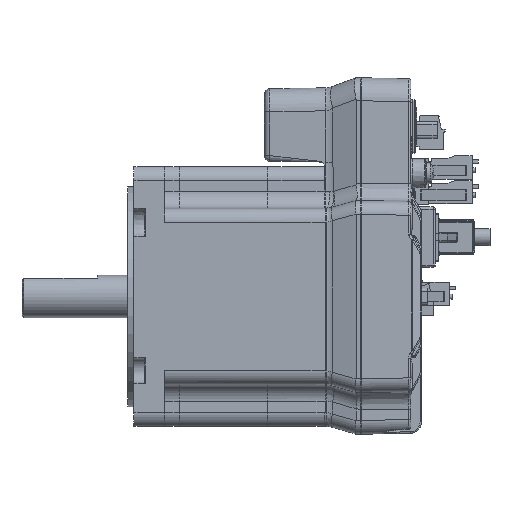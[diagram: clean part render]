
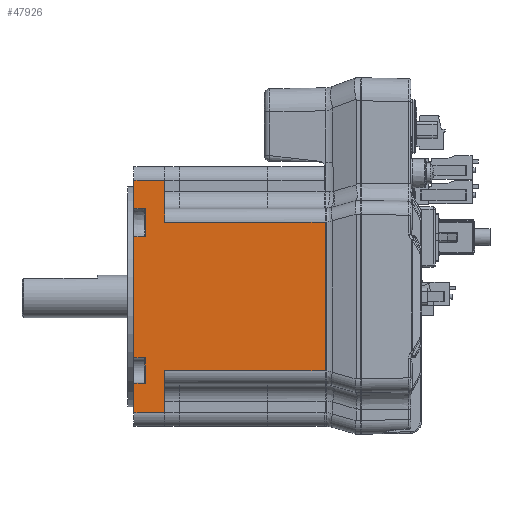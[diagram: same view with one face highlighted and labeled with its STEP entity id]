
A CAD part, left-side view. The second image highlights one B-rep face of the part: STEP entity #47926.
In plain terms, the highlighted planar face has unit normal (-1, 0, 0).
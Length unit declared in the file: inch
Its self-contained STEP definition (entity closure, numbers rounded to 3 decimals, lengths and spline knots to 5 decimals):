
#39510=CARTESIAN_POINT('',(-1.695,3.15028,-0.801));
#39511=VERTEX_POINT('',#39510);
#39518=CARTESIAN_POINT('',(-1.695,3.29628,-0.801));
#39519=VERTEX_POINT('',#39518);
#39520=CARTESIAN_POINT('',(-1.695,3.34628,-0.801));
#39521=DIRECTION('',(0.,1.,0.));
#39522=VECTOR('',#39521,1.);
#39523=LINE('',#39520,#39522);
#39524=EDGE_CURVE('',#39511,#39519,#39523,.T.);
#45187=CARTESIAN_POINT('',(-1.69508,0.80275,0.97109));
#45188=VERTEX_POINT('',#45187);
#45250=CARTESIAN_POINT('',(-1.69508,0.80275,-0.97109));
#45251=VERTEX_POINT('',#45250);
#45918=CARTESIAN_POINT('',(-1.695,0.80731,-0.4855));
#45919=DIRECTION('',(0.,0.,-1.));
#45920=VECTOR('',#45919,1.);
#45921=LINE('',#45918,#45920);
#45922=EDGE_CURVE('',#45188,#45251,#45921,.T.);
#47777=CARTESIAN_POINT('',(-1.695,3.15028,0.78096));
#47778=VERTEX_POINT('',#47777);
#47785=CARTESIAN_POINT('',(-1.695,3.15028,1.15104));
#47786=VERTEX_POINT('',#47785);
#47787=CARTESIAN_POINT('',(-1.695,3.15028,1.84699));
#47788=DIRECTION('',(0.,0.,-1.));
#47789=VECTOR('',#47788,1.);
#47790=LINE('',#47787,#47789);
#47791=EDGE_CURVE('',#47786,#47778,#47790,.T.);
#47818=CARTESIAN_POINT('',(-1.695,3.29628,0.77841));
#47819=VERTEX_POINT('',#47818);
#47820=CARTESIAN_POINT('',(-1.695,3.25086,0.7792));
#47821=DIRECTION('',(0.,1.,-0.017));
#47822=VECTOR('',#47821,1.);
#47823=LINE('',#47820,#47822);
#47824=EDGE_CURVE('',#47778,#47819,#47823,.T.);
#47825=ORIENTED_EDGE('',*,*,#47824,.T.);
#47826=CARTESIAN_POINT('',(-1.695,3.29628,-0.4855));
#47827=DIRECTION('',(0.,0.,-1.));
#47828=VECTOR('',#47827,1.);
#47829=LINE('',#47826,#47828);
#47830=EDGE_CURVE('',#47819,#39519,#47829,.T.);
#47831=ORIENTED_EDGE('',*,*,#47830,.T.);
#47832=ORIENTED_EDGE('',*,*,#39524,.F.);
#47833=CARTESIAN_POINT('',(-1.695,3.15028,-1.131));
#47834=VERTEX_POINT('',#47833);
#47835=CARTESIAN_POINT('',(-1.695,3.15028,0.9635));
#47836=DIRECTION('',(0.,0.,-1.));
#47837=VECTOR('',#47836,1.);
#47838=LINE('',#47835,#47837);
#47839=EDGE_CURVE('',#39511,#47834,#47838,.T.);
#47840=ORIENTED_EDGE('',*,*,#47839,.T.);
#47841=CARTESIAN_POINT('',(-1.695,3.29628,-1.131));
#47842=VERTEX_POINT('',#47841);
#47843=CARTESIAN_POINT('',(-1.695,3.34628,-1.131));
#47844=DIRECTION('',(0.,-1.,0.));
#47845=VECTOR('',#47844,1.);
#47846=LINE('',#47843,#47845);
#47847=EDGE_CURVE('',#47842,#47834,#47846,.T.);
#47848=ORIENTED_EDGE('',*,*,#47847,.F.);
#47849=CARTESIAN_POINT('',(-1.695,3.29628,-1.515));
#47850=VERTEX_POINT('',#47849);
#47851=CARTESIAN_POINT('',(-1.695,3.29628,-0.4855));
#47852=DIRECTION('',(0.,0.,-1.));
#47853=VECTOR('',#47852,1.);
#47854=LINE('',#47851,#47853);
#47855=EDGE_CURVE('',#47842,#47850,#47854,.T.);
#47856=ORIENTED_EDGE('',*,*,#47855,.T.);
#47857=CARTESIAN_POINT('',(-1.695,2.89628,-1.515));
#47858=VERTEX_POINT('',#47857);
#47859=CARTESIAN_POINT('',(-1.695,2.93528,-1.515));
#47860=DIRECTION('',(0.,1.,0.));
#47861=VECTOR('',#47860,39.37008);
#47862=LINE('',#47859,#47861);
#47863=EDGE_CURVE('',#47858,#47850,#47862,.T.);
#47864=ORIENTED_EDGE('',*,*,#47863,.F.);
#47865=CARTESIAN_POINT('',(-1.695,2.89628,-0.971));
#47866=VERTEX_POINT('',#47865);
#47867=CARTESIAN_POINT('',(-1.695,2.89628,-0.4855));
#47868=DIRECTION('',(0.,0.,-1.));
#47869=VECTOR('',#47868,1.);
#47870=LINE('',#47867,#47869);
#47871=EDGE_CURVE('',#47866,#47858,#47870,.T.);
#47872=ORIENTED_EDGE('',*,*,#47871,.F.);
#47873=CARTESIAN_POINT('',(-1.695,3.33528,-0.971));
#47874=DIRECTION('',(0.,-1.,0.));
#47875=VECTOR('',#47874,39.37008);
#47876=LINE('',#47873,#47875);
#47877=EDGE_CURVE('',#47866,#45251,#47876,.T.);
#47878=ORIENTED_EDGE('',*,*,#47877,.T.);
#47879=ORIENTED_EDGE('',*,*,#45922,.F.);
#47880=CARTESIAN_POINT('',(-1.695,2.89628,0.971));
#47881=VERTEX_POINT('',#47880);
#47882=CARTESIAN_POINT('',(-1.695,0.906,0.971));
#47883=DIRECTION('',(0.,1.,0.));
#47884=VECTOR('',#47883,39.37008);
#47885=LINE('',#47882,#47884);
#47886=EDGE_CURVE('',#45188,#47881,#47885,.T.);
#47887=ORIENTED_EDGE('',*,*,#47886,.T.);
#47888=CARTESIAN_POINT('',(-1.695,2.89628,1.515));
#47889=VERTEX_POINT('',#47888);
#47890=CARTESIAN_POINT('',(-1.695,2.89628,-0.4855));
#47891=DIRECTION('',(0.,0.,-1.));
#47892=VECTOR('',#47891,1.);
#47893=LINE('',#47890,#47892);
#47894=EDGE_CURVE('',#47889,#47881,#47893,.T.);
#47895=ORIENTED_EDGE('',*,*,#47894,.F.);
#47896=CARTESIAN_POINT('',(-1.695,3.29628,1.515));
#47897=VERTEX_POINT('',#47896);
#47898=CARTESIAN_POINT('',(-1.695,2.93528,1.515));
#47899=DIRECTION('',(0.,1.,0.));
#47900=VECTOR('',#47899,39.37008);
#47901=LINE('',#47898,#47900);
#47902=EDGE_CURVE('',#47889,#47897,#47901,.T.);
#47903=ORIENTED_EDGE('',*,*,#47902,.T.);
#47904=CARTESIAN_POINT('',(-1.695,3.29628,1.15359));
#47905=VERTEX_POINT('',#47904);
#47906=CARTESIAN_POINT('',(-1.695,3.29628,-0.4855));
#47907=DIRECTION('',(0.,0.,-1.));
#47908=VECTOR('',#47907,1.);
#47909=LINE('',#47906,#47908);
#47910=EDGE_CURVE('',#47897,#47905,#47909,.T.);
#47911=ORIENTED_EDGE('',*,*,#47910,.T.);
#47912=CARTESIAN_POINT('',(-1.695,3.21706,1.15221));
#47913=DIRECTION('',(0.,-1.,-0.017));
#47914=VECTOR('',#47913,1.);
#47915=LINE('',#47912,#47914);
#47916=EDGE_CURVE('',#47905,#47786,#47915,.T.);
#47917=ORIENTED_EDGE('',*,*,#47916,.T.);
#47918=ORIENTED_EDGE('',*,*,#47791,.T.);
#47919=EDGE_LOOP('',(#47825,#47831,#47832,#47840,#47848,#47856,#47864,#47872,#47878,#47879,#47887,#47895,#47903,#47911,#47917,#47918));
#47920=FACE_OUTER_BOUND('',#47919,.T.);
#47921=CARTESIAN_POINT('',(-1.695,3.33528,-0.971));
#47922=DIRECTION('',(-1.,0.,0.));
#47923=DIRECTION('',(0.,0.,-1.));
#47924=AXIS2_PLACEMENT_3D('',#47921,#47922,#47923);
#47925=PLANE('',#47924);
#47926=ADVANCED_FACE('',(#47920),#47925,.T.);
